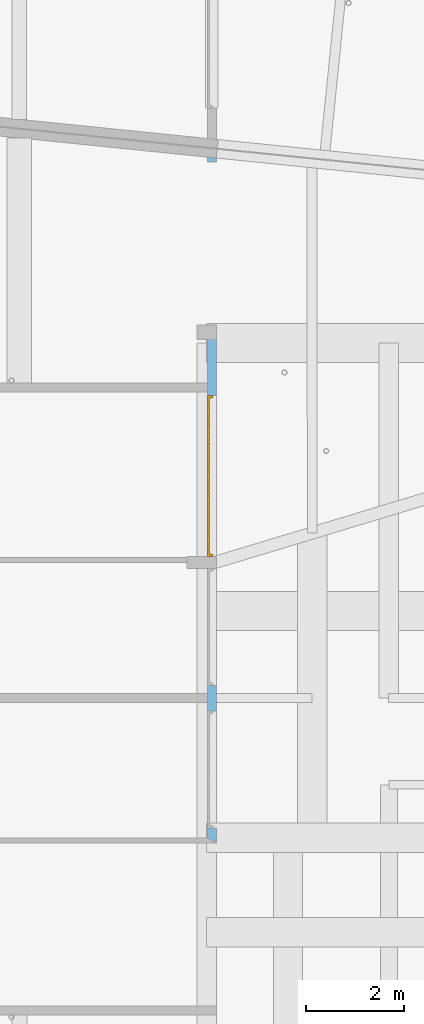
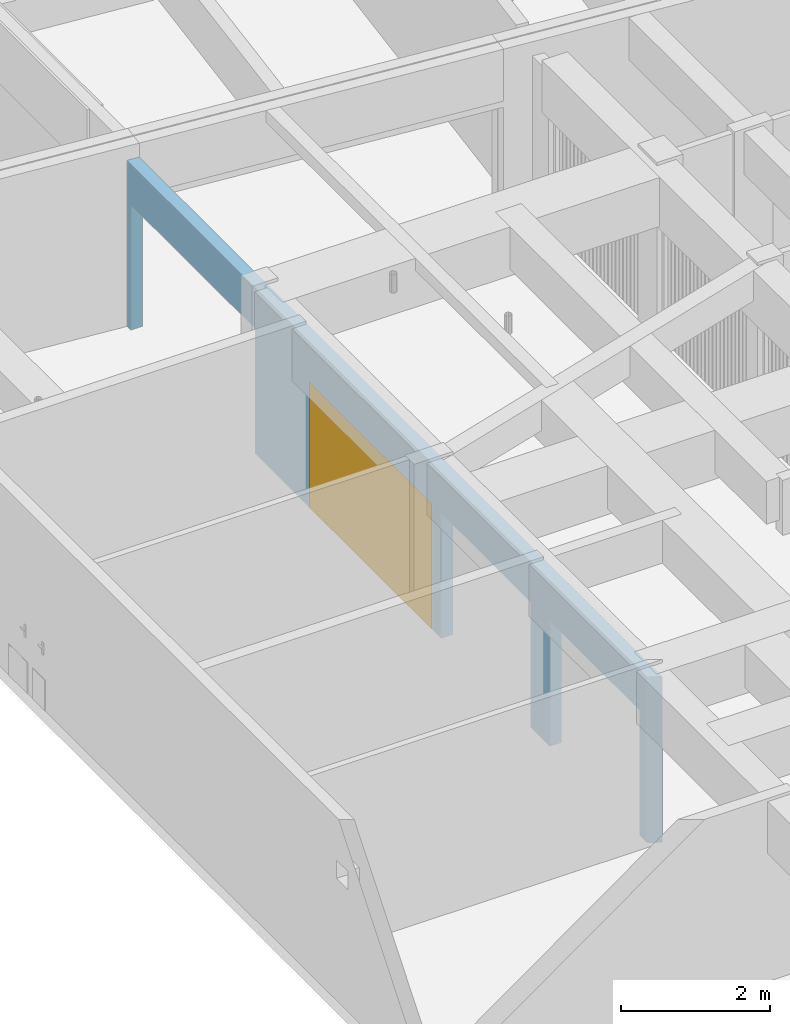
# One storey, part 12 of 41: 1 door, 4 openings, plus 1 element that does not belong to this part.
"""IFC2X3 building model written with IfcOpenShell, lengths in millimetres."""

from ifc_helpers import new_model, entity, si_unit, converted_unit, derived_unit, money_unit, direction, frame, origin_with_axes, origin_2d_with_axis, place, context, subcontext, project, spatial, polyline, rectangle, outline, extrude, faceted_brep, source, transform, mapped, material, layer, layer_set, layer_usage, type_object, element, fill, save


model = new_model("IFC2X3")

# Units and contexts
model_context = context("Model", 3, precision=0.01, world=origin_with_axes(), true_north=direction((0.0, 1.0)))
body_context = subcontext(model_context, "Body", "Model", "MODEL_VIEW")
ifc_project = project(units=[si_unit("LENGTHUNIT", "METRE", prefix="MILLI"), si_unit("AREAUNIT", "SQUARE_METRE"), si_unit("VOLUMEUNIT", "CUBIC_METRE"), converted_unit("PLANEANGLEUNIT", "DEGREE", entity("IfcPlaneAngleMeasure", 0.0174532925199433), si_unit("PLANEANGLEUNIT", "RADIAN"), dimensions=[0, 0, 0, 0, 0, 0, 0]), money_unit("USD"), converted_unit("TIMEUNIT", "Year", entity("IfcTimeMeasure", 31557600.0), si_unit("TIMEUNIT", "SECOND"), dimensions=[0, 0, 1, 0, 0, 0, 0]), si_unit("MASSUNIT", "GRAM", prefix="KILO"), si_unit("THERMODYNAMICTEMPERATUREUNIT", "DEGREE_CELSIUS"), si_unit("LUMINOUSINTENSITYUNIT", "LUMEN"), si_unit("ENERGYUNIT", "JOULE", prefix="MEGA"), derived_unit("THERMALCONDUCTANCEUNIT", [(si_unit("POWERUNIT", "WATT"), 1), (si_unit("LENGTHUNIT", "METRE"), -1), (si_unit("THERMODYNAMICTEMPERATUREUNIT", "KELVIN"), -1)]), derived_unit("SPECIFICHEATCAPACITYUNIT", [(si_unit("ENERGYUNIT", "JOULE"), 1), (si_unit("MASSUNIT", "GRAM", prefix="KILO"), -1), (si_unit("THERMODYNAMICTEMPERATUREUNIT", "KELVIN"), -1)]), derived_unit("MASSDENSITYUNIT", [(si_unit("MASSUNIT", "GRAM", prefix="KILO"), 1), (si_unit("VOLUMEUNIT", "CUBIC_METRE"), -1)])], contexts=[model_context])

# Site, building, storey
site_placement = place(None, origin_with_axes())
site = spatial("IfcSite", under=ifc_project, at=site_placement, Name="Site", CompositionType="ELEMENT")
building_placement = place(site_placement, origin_with_axes())
building = spatial("IfcBuilding", under=site, at=building_placement, Name="Bâtiment", CompositionType="ELEMENT")
storey_placement = place(building_placement, origin_with_axes())
storey = spatial("IfcBuildingStorey", under=building, at=storey_placement, Name="sousol", CompositionType="ELEMENT", Elevation=0.0)

# Wall, openings, door
ifc_material = material(Name="Parpaing 314940890")
ifc_layer = layer(ifc_material, 180.0, ventilated="UNKNOWN")
ifc_layer_set = layer_set([ifc_layer], Name="Beton  18 0170347028")
ifc_layer_usage = layer_usage(ifc_layer_set, "AXIS2", "NEGATIVE", 0.0)
wall_type = type_object("IfcWallType", Name="Beton  18 0170347028 180", PredefinedType="NOTDEFINED")
wall_placement = place(storey_placement, frame((2222264.233344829, -621462.5328940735, 0.0), z_axis=(0.0, 0.0, 1.0), x_axis=(0.0, -1.0, 0.0)))
wall = element("IfcWallStandardCase", 1, at=wall_placement, inside=storey, type_object=wall_type, material=ifc_layer_usage, Name="Mur-133", context=body_context, shape_type="SweptSolid", body=[
    extrude(outline(polyline([(-18.29231084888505, -179.99999999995), (13931.14654136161, -179.99999999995), (14031.14654136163, 0.0), (0.0, 0.0), (-18.29231084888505, -179.99999999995)])), origin_with_axes(), (0.0, 0.0, 1.0), 2719.999999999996),
])
opening_1_placement = place(wall_placement, frame((12525.68746920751, 2.046363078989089e-09, 0.0), z_axis=(0.0, 0.0, 1.0), x_axis=(1.0, 0.0, 0.0)))
element("IfcOpeningElement", 2, at=opening_1_placement, cuts=wall, Name="Por-296", context=body_context, shape_type="SweptSolid", body=[
    extrude(rectangle(XDim=2400.000000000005, YDim=2050.0, at=origin_2d_with_axis()), frame((0.0, -180.0000000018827, 1025.0), z_axis=(0.0, 1.0, 0.0), x_axis=(1.0, 0.0, 0.0)), (0.0, 0.0, -1.0), 180.0),
    extrude(rectangle(XDim=2400.000000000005, YDim=2050.0, at=origin_2d_with_axis()), frame((0.0, -180.0000000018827, 1025.0), z_axis=(0.0, -1.0, 0.0), x_axis=(1.0, 0.0, 0.0)), (0.0, 0.0, -1.0), 180.0),
])
opening_2_placement = place(wall_placement, frame((6511.917336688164, 1.13686837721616e-09, 0.0), z_axis=(0.0, 0.0, 1.0), x_axis=(1.0, 0.0, 0.0)))
opening_2 = element("IfcOpeningElement", 3, at=opening_2_placement, cuts=wall, Name="Por-296", context=body_context, shape_type="SweptSolid", body=[
    extrude(rectangle(XDim=3299.999999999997, YDim=2050.0, at=origin_2d_with_axis()), frame((0.0, -180.0000000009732, 1025.0), z_axis=(0.0, 1.0, 0.0), x_axis=(1.0, 0.0, 0.0)), (0.0, 0.0, -1.0), 180.0),
    extrude(rectangle(XDim=3299.999999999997, YDim=2050.0, at=origin_2d_with_axis()), frame((0.0, -180.0000000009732, 1025.0), z_axis=(0.0, -1.0, 0.0), x_axis=(1.0, 0.0, 0.0)), (0.0, 0.0, -1.0), 180.0),
])
opening_3_placement = place(wall_placement, frame((9610.427612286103, 1.591615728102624e-09, 0.0), z_axis=(0.0, 0.0, 1.0), x_axis=(1.0, 0.0, 0.0)))
element("IfcOpeningElement", 4, at=opening_3_placement, cuts=wall, Name="Por-296", context=body_context, shape_type="SweptSolid", body=[
    extrude(rectangle(XDim=2400.000000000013, YDim=2050.0, at=origin_2d_with_axis()), frame((0.0, -180.0000000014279, 1025.0), z_axis=(0.0, 1.0, 0.0), x_axis=(1.0, 0.0, 0.0)), (0.0, 0.0, -1.0), 180.0),
    extrude(rectangle(XDim=2400.000000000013, YDim=2050.0, at=origin_2d_with_axis()), frame((0.0, -180.0000000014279, 1025.0), z_axis=(0.0, -1.0, 0.0), x_axis=(1.0, 0.0, 0.0)), (0.0, 0.0, -1.0), 180.0),
])
opening_4_placement = place(wall_placement, frame((1751.217755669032, 3.410605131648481e-10, 0.0), z_axis=(0.0, 0.0, 1.0), x_axis=(1.0, 0.0, 0.0)))
element("IfcOpeningElement", 5, at=opening_4_placement, cuts=wall, Name="Por-296", context=body_context, shape_type="SweptSolid", body=[
    extrude(rectangle(XDim=3337.990043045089, YDim=2050.0, at=origin_2d_with_axis()), frame((0.0, -180.0000000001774, 1025.0), z_axis=(0.0, 1.0, 0.0), x_axis=(1.0, 0.0, 0.0)), (0.0, 0.0, -1.0), 180.0),
    extrude(rectangle(XDim=3337.990043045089, YDim=2050.0, at=origin_2d_with_axis()), frame((0.0, -180.0000000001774, 1025.0), z_axis=(0.0, -1.0, 0.0), x_axis=(1.0, 0.0, 0.0)), (0.0, 0.0, -1.0), 180.0),
])
door_style = type_object("IfcDoorStyle", Name="P_garage 1", ConstructionType="NOTDEFINED", OperationType="NOTDEFINED", ParameterTakesPrecedence=False, Sizeable=False)
shared_shape = source(origin_with_axes(), body_context, "Body", "Brep", [
    faceted_brep([(1650.0, 0.0, 0.0), (1650.0, -100.0, 0.0), (1600.0, -100.0, 0.0), (1600.0, 0.0, 0.0), (1650.0, 0.0, 2050.0), (1650.0, -100.0, 2050.0), (-1650.0, -100.0, 2050.0), (-1650.0, -100.0, 0.0), (-1600.0, -100.0, 0.0), (-1600.0, -100.0, 2000.0), (1600.0, -100.0, 2000.0), (1600.0, 0.0, 2000.0), (-1600.0, 0.0, 2000.0), (-1600.0, 0.0, 0.0), (-1650.0, 0.0, 0.0), (-1650.0, 0.0, 2050.0)], [[[0, 1, 2, 3]], [[4, 5, 1, 0]], [[1, 5, 6, 7, 8, 9, 10, 2]], [[3, 2, 10, 11]], [[0, 3, 11, 12, 13, 14, 15, 4]], [[15, 6, 5, 4]], [[14, 7, 6, 15]], [[13, 8, 7, 14]], [[12, 9, 8, 13]], [[11, 10, 9, 12]]]),
    faceted_brep([(1519.375, -40.0, 0.0), (1519.375, -40.0, 2000.0), (1519.375, -26.66666666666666, 2000.0), (1519.375, -26.66666666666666, 0.0), (1600.0, -40.0, 0.0), (1600.0, -40.0, 2000.0), (1600.0, -26.66666666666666, 2000.0), (1600.0, -26.66666666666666, 0.0)], [[[0, 1, 2, 3]], [[0, 4, 5, 1]], [[1, 5, 6, 2]], [[3, 2, 6, 7]], [[4, 0, 3, 7]], [[5, 4, 7, 6]]]),
    faceted_brep([(1418.75, -40.0, 0.0), (1418.75, -40.0, 2000.0), (1418.75, -26.66666666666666, 2000.0), (1418.75, -26.66666666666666, 0.0), (1499.375, -40.0, 0.0), (1499.375, -40.0, 2000.0), (1499.375, -26.66666666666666, 2000.0), (1499.375, -26.66666666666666, 0.0)], [[[0, 1, 2, 3]], [[0, 4, 5, 1]], [[1, 5, 6, 2]], [[3, 2, 6, 7]], [[4, 0, 3, 7]], [[5, 4, 7, 6]]]),
    faceted_brep([(1318.125, -40.0, 0.0), (1318.125, -40.0, 2000.0), (1318.125, -26.66666666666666, 2000.0), (1318.125, -26.66666666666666, 0.0), (1398.75, -40.0, 0.0), (1398.75, -40.0, 2000.0), (1398.75, -26.66666666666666, 2000.0), (1398.75, -26.66666666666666, 0.0)], [[[0, 1, 2, 3]], [[0, 4, 5, 1]], [[1, 5, 6, 2]], [[3, 2, 6, 7]], [[4, 0, 3, 7]], [[5, 4, 7, 6]]]),
    faceted_brep([(1217.5, -40.0, 0.0), (1217.5, -40.0, 2000.0), (1217.5, -26.66666666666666, 2000.0), (1217.5, -26.66666666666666, 0.0), (1298.125, -40.0, 0.0), (1298.125, -40.0, 2000.0), (1298.125, -26.66666666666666, 2000.0), (1298.125, -26.66666666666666, 0.0)], [[[0, 1, 2, 3]], [[0, 4, 5, 1]], [[1, 5, 6, 2]], [[3, 2, 6, 7]], [[4, 0, 3, 7]], [[5, 4, 7, 6]]]),
    faceted_brep([(1116.875, -40.0, 0.0), (1116.875, -40.0, 2000.0), (1116.875, -26.66666666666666, 2000.0), (1116.875, -26.66666666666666, 0.0), (1197.5, -40.0, 0.0), (1197.5, -40.0, 2000.0), (1197.5, -26.66666666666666, 2000.0), (1197.5, -26.66666666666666, 0.0)], [[[0, 1, 2, 3]], [[0, 4, 5, 1]], [[1, 5, 6, 2]], [[3, 2, 6, 7]], [[4, 0, 3, 7]], [[5, 4, 7, 6]]]),
    faceted_brep([(1016.25, -40.0, 0.0), (1016.25, -40.0, 2000.0), (1016.25, -26.66666666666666, 2000.0), (1016.25, -26.66666666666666, 0.0), (1096.875, -40.0, 0.0), (1096.875, -40.0, 2000.0), (1096.875, -26.66666666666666, 2000.0), (1096.875, -26.66666666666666, 0.0)], [[[0, 1, 2, 3]], [[0, 4, 5, 1]], [[1, 5, 6, 2]], [[3, 2, 6, 7]], [[4, 0, 3, 7]], [[5, 4, 7, 6]]]),
    faceted_brep([(915.625, -40.0, 0.0), (915.625, -40.0, 2000.0), (915.625, -26.66666666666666, 2000.0), (915.625, -26.66666666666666, 0.0), (996.25, -40.0, 0.0), (996.25, -40.0, 2000.0), (996.25, -26.66666666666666, 2000.0), (996.25, -26.66666666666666, 0.0)], [[[0, 1, 2, 3]], [[0, 4, 5, 1]], [[1, 5, 6, 2]], [[3, 2, 6, 7]], [[4, 0, 3, 7]], [[5, 4, 7, 6]]]),
    faceted_brep([(815.0000000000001, -40.0, 0.0), (815.0000000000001, -40.0, 2000.0), (815.0000000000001, -26.66666666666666, 2000.0), (815.0000000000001, -26.66666666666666, 0.0), (895.625, -40.0, 0.0), (895.625, -40.0, 2000.0), (895.625, -26.66666666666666, 2000.0), (895.625, -26.66666666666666, 0.0)], [[[0, 1, 2, 3]], [[0, 4, 5, 1]], [[1, 5, 6, 2]], [[3, 2, 6, 7]], [[4, 0, 3, 7]], [[5, 4, 7, 6]]]),
    faceted_brep([(714.3750000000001, -40.0, 0.0), (714.3750000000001, -40.0, 2000.0), (714.3750000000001, -26.66666666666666, 2000.0), (714.3750000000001, -26.66666666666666, 0.0), (795.0, -40.0, 0.0), (795.0, -40.0, 2000.0), (795.0, -26.66666666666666, 2000.0), (795.0, -26.66666666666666, 0.0)], [[[0, 1, 2, 3]], [[0, 4, 5, 1]], [[1, 5, 6, 2]], [[3, 2, 6, 7]], [[4, 0, 3, 7]], [[5, 4, 7, 6]]]),
    faceted_brep([(613.7500000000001, -40.0, 0.0), (613.7500000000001, -40.0, 2000.0), (613.7500000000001, -26.66666666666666, 2000.0), (613.7500000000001, -26.66666666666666, 0.0), (694.3750000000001, -40.0, 0.0), (694.3750000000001, -40.0, 2000.0), (694.3750000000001, -26.66666666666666, 2000.0), (694.3750000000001, -26.66666666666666, 0.0)], [[[0, 1, 2, 3]], [[0, 4, 5, 1]], [[1, 5, 6, 2]], [[3, 2, 6, 7]], [[4, 0, 3, 7]], [[5, 4, 7, 6]]]),
    faceted_brep([(513.125, -40.0, 0.0), (513.125, -40.0, 2000.0), (513.125, -26.66666666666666, 2000.0), (513.125, -26.66666666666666, 0.0), (593.75, -40.0, 0.0), (593.75, -40.0, 2000.0), (593.75, -26.66666666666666, 2000.0), (593.75, -26.66666666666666, 0.0)], [[[0, 1, 2, 3]], [[0, 4, 5, 1]], [[1, 5, 6, 2]], [[3, 2, 6, 7]], [[4, 0, 3, 7]], [[5, 4, 7, 6]]]),
    faceted_brep([(412.5000000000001, -40.0, 0.0), (412.5000000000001, -40.0, 2000.0), (412.5000000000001, -26.66666666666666, 2000.0), (412.5000000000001, -26.66666666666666, 0.0), (493.1250000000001, -40.0, 0.0), (493.1250000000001, -40.0, 2000.0), (493.1250000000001, -26.66666666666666, 2000.0), (493.1250000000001, -26.66666666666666, 0.0)], [[[0, 1, 2, 3]], [[0, 4, 5, 1]], [[1, 5, 6, 2]], [[3, 2, 6, 7]], [[4, 0, 3, 7]], [[5, 4, 7, 6]]]),
    faceted_brep([(311.8750000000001, -40.0, 0.0), (311.8750000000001, -40.0, 2000.0), (311.8750000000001, -26.66666666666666, 2000.0), (311.8750000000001, -26.66666666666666, 0.0), (392.5000000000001, -40.0, 0.0), (392.5000000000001, -40.0, 2000.0), (392.5000000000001, -26.66666666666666, 2000.0), (392.5000000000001, -26.66666666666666, 0.0)], [[[0, 1, 2, 3]], [[0, 4, 5, 1]], [[1, 5, 6, 2]], [[3, 2, 6, 7]], [[4, 0, 3, 7]], [[5, 4, 7, 6]]]),
    faceted_brep([(211.2500000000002, -40.0, 0.0), (211.2500000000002, -40.0, 2000.0), (211.2500000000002, -26.66666666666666, 2000.0), (211.2500000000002, -26.66666666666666, 0.0), (291.8750000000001, -40.0, 0.0), (291.8750000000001, -40.0, 2000.0), (291.8750000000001, -26.66666666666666, 2000.0), (291.8750000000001, -26.66666666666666, 0.0)], [[[0, 1, 2, 3]], [[0, 4, 5, 1]], [[1, 5, 6, 2]], [[3, 2, 6, 7]], [[4, 0, 3, 7]], [[5, 4, 7, 6]]]),
    faceted_brep([(110.6250000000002, -40.0, 0.0), (110.6250000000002, -40.0, 2000.0), (110.6250000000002, -26.66666666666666, 2000.0), (110.6250000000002, -26.66666666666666, 0.0), (191.2500000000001, -40.0, 0.0), (191.2500000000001, -40.0, 2000.0), (191.2500000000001, -26.66666666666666, 2000.0), (191.2500000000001, -26.66666666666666, 0.0)], [[[0, 1, 2, 3]], [[0, 4, 5, 1]], [[1, 5, 6, 2]], [[3, 2, 6, 7]], [[4, 0, 3, 7]], [[5, 4, 7, 6]]]),
    faceted_brep([(10.00000000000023, -40.0, 0.0), (10.00000000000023, -40.0, 2000.0), (10.00000000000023, -26.66666666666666, 2000.0), (10.00000000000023, -26.66666666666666, 0.0), (90.62500000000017, -40.0, 0.0), (90.62500000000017, -40.0, 2000.0), (90.62500000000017, -26.66666666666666, 2000.0), (90.62500000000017, -26.66666666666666, 0.0)], [[[0, 1, 2, 3]], [[0, 4, 5, 1]], [[1, 5, 6, 2]], [[3, 2, 6, 7]], [[4, 0, 3, 7]], [[5, 4, 7, 6]]]),
    faceted_brep([(-90.62499999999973, -40.0, 0.0), (-90.62499999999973, -40.0, 2000.0), (-90.62499999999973, -26.66666666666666, 2000.0), (-90.62499999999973, -26.66666666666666, 0.0), (-9.999999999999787, -40.0, 0.0), (-9.999999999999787, -40.0, 2000.0), (-9.999999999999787, -26.66666666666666, 2000.0), (-9.999999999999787, -26.66666666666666, 0.0)], [[[0, 1, 2, 3]], [[0, 4, 5, 1]], [[1, 5, 6, 2]], [[3, 2, 6, 7]], [[4, 0, 3, 7]], [[5, 4, 7, 6]]]),
    faceted_brep([(-191.2499999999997, -40.0, 0.0), (-191.2499999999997, -40.0, 2000.0), (-191.2499999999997, -26.66666666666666, 2000.0), (-191.2499999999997, -26.66666666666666, 0.0), (-110.6249999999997, -40.0, 0.0), (-110.6249999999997, -40.0, 2000.0), (-110.6249999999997, -26.66666666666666, 2000.0), (-110.6249999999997, -26.66666666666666, 0.0)], [[[0, 1, 2, 3]], [[0, 4, 5, 1]], [[1, 5, 6, 2]], [[3, 2, 6, 7]], [[4, 0, 3, 7]], [[5, 4, 7, 6]]]),
    faceted_brep([(-291.8749999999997, -40.0, 0.0), (-291.8749999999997, -40.0, 2000.0), (-291.8749999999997, -26.66666666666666, 2000.0), (-291.8749999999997, -26.66666666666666, 0.0), (-211.2499999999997, -40.0, 0.0), (-211.2499999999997, -40.0, 2000.0), (-211.2499999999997, -26.66666666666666, 2000.0), (-211.2499999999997, -26.66666666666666, 0.0)], [[[0, 1, 2, 3]], [[0, 4, 5, 1]], [[1, 5, 6, 2]], [[3, 2, 6, 7]], [[4, 0, 3, 7]], [[5, 4, 7, 6]]]),
    faceted_brep([(-392.4999999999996, -40.0, 0.0), (-392.4999999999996, -40.0, 2000.0), (-392.4999999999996, -26.66666666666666, 2000.0), (-392.4999999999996, -26.66666666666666, 0.0), (-311.8749999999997, -40.0, 0.0), (-311.8749999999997, -40.0, 2000.0), (-311.8749999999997, -26.66666666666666, 2000.0), (-311.8749999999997, -26.66666666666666, 0.0)], [[[0, 1, 2, 3]], [[0, 4, 5, 1]], [[1, 5, 6, 2]], [[3, 2, 6, 7]], [[4, 0, 3, 7]], [[5, 4, 7, 6]]]),
    faceted_brep([(-493.1249999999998, -40.0, 0.0), (-493.1249999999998, -40.0, 2000.0), (-493.1249999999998, -26.66666666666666, 2000.0), (-493.1249999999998, -26.66666666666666, 0.0), (-412.4999999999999, -40.0, 0.0), (-412.4999999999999, -40.0, 2000.0), (-412.4999999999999, -26.66666666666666, 2000.0), (-412.4999999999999, -26.66666666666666, 0.0)], [[[0, 1, 2, 3]], [[0, 4, 5, 1]], [[1, 5, 6, 2]], [[3, 2, 6, 7]], [[4, 0, 3, 7]], [[5, 4, 7, 6]]]),
    faceted_brep([(-593.7499999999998, -40.0, 0.0), (-593.7499999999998, -40.0, 2000.0), (-593.7499999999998, -26.66666666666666, 2000.0), (-593.7499999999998, -26.66666666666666, 0.0), (-513.1249999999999, -40.0, 0.0), (-513.1249999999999, -40.0, 2000.0), (-513.1249999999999, -26.66666666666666, 2000.0), (-513.1249999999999, -26.66666666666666, 0.0)], [[[0, 1, 2, 3]], [[0, 4, 5, 1]], [[1, 5, 6, 2]], [[3, 2, 6, 7]], [[4, 0, 3, 7]], [[5, 4, 7, 6]]]),
    faceted_brep([(-694.3749999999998, -40.0, 0.0), (-694.3749999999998, -40.0, 2000.0), (-694.3749999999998, -26.66666666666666, 2000.0), (-694.3749999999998, -26.66666666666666, 0.0), (-613.7499999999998, -40.0, 0.0), (-613.7499999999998, -40.0, 2000.0), (-613.7499999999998, -26.66666666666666, 2000.0), (-613.7499999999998, -26.66666666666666, 0.0)], [[[0, 1, 2, 3]], [[0, 4, 5, 1]], [[1, 5, 6, 2]], [[3, 2, 6, 7]], [[4, 0, 3, 7]], [[5, 4, 7, 6]]]),
    faceted_brep([(-794.9999999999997, -40.0, 0.0), (-794.9999999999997, -40.0, 2000.0), (-794.9999999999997, -26.66666666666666, 2000.0), (-794.9999999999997, -26.66666666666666, 0.0), (-714.3749999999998, -40.0, 0.0), (-714.3749999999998, -40.0, 2000.0), (-714.3749999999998, -26.66666666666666, 2000.0), (-714.3749999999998, -26.66666666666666, 0.0)], [[[0, 1, 2, 3]], [[0, 4, 5, 1]], [[1, 5, 6, 2]], [[3, 2, 6, 7]], [[4, 0, 3, 7]], [[5, 4, 7, 6]]]),
    faceted_brep([(-895.6249999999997, -40.0, 0.0), (-895.6249999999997, -40.0, 2000.0), (-895.6249999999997, -26.66666666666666, 2000.0), (-895.6249999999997, -26.66666666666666, 0.0), (-814.9999999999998, -40.0, 0.0), (-814.9999999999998, -40.0, 2000.0), (-814.9999999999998, -26.66666666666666, 2000.0), (-814.9999999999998, -26.66666666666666, 0.0)], [[[0, 1, 2, 3]], [[0, 4, 5, 1]], [[1, 5, 6, 2]], [[3, 2, 6, 7]], [[4, 0, 3, 7]], [[5, 4, 7, 6]]]),
    faceted_brep([(-996.2499999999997, -40.0, 0.0), (-996.2499999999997, -40.0, 2000.0), (-996.2499999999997, -26.66666666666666, 2000.0), (-996.2499999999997, -26.66666666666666, 0.0), (-915.6249999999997, -40.0, 0.0), (-915.6249999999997, -40.0, 2000.0), (-915.6249999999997, -26.66666666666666, 2000.0), (-915.6249999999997, -26.66666666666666, 0.0)], [[[0, 1, 2, 3]], [[0, 4, 5, 1]], [[1, 5, 6, 2]], [[3, 2, 6, 7]], [[4, 0, 3, 7]], [[5, 4, 7, 6]]]),
    faceted_brep([(-1096.875, -40.0, 0.0), (-1096.875, -40.0, 2000.0), (-1096.875, -26.66666666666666, 2000.0), (-1096.875, -26.66666666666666, 0.0), (-1016.25, -40.0, 0.0), (-1016.25, -40.0, 2000.0), (-1016.25, -26.66666666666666, 2000.0), (-1016.25, -26.66666666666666, 0.0)], [[[0, 1, 2, 3]], [[0, 4, 5, 1]], [[1, 5, 6, 2]], [[3, 2, 6, 7]], [[4, 0, 3, 7]], [[5, 4, 7, 6]]]),
    faceted_brep([(-1197.5, -40.0, 0.0), (-1197.5, -40.0, 2000.0), (-1197.5, -26.66666666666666, 2000.0), (-1197.5, -26.66666666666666, 0.0), (-1116.875, -40.0, 0.0), (-1116.875, -40.0, 2000.0), (-1116.875, -26.66666666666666, 2000.0), (-1116.875, -26.66666666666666, 0.0)], [[[0, 1, 2, 3]], [[0, 4, 5, 1]], [[1, 5, 6, 2]], [[3, 2, 6, 7]], [[4, 0, 3, 7]], [[5, 4, 7, 6]]]),
    faceted_brep([(-1298.125, -40.0, 0.0), (-1298.125, -40.0, 2000.0), (-1298.125, -26.66666666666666, 2000.0), (-1298.125, -26.66666666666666, 0.0), (-1217.5, -40.0, 0.0), (-1217.5, -40.0, 2000.0), (-1217.5, -26.66666666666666, 2000.0), (-1217.5, -26.66666666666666, 0.0)], [[[0, 1, 2, 3]], [[0, 4, 5, 1]], [[1, 5, 6, 2]], [[3, 2, 6, 7]], [[4, 0, 3, 7]], [[5, 4, 7, 6]]]),
    faceted_brep([(-1398.75, -40.0, 0.0), (-1398.75, -40.0, 2000.0), (-1398.75, -26.66666666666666, 2000.0), (-1398.75, -26.66666666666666, 0.0), (-1318.125, -40.0, 0.0), (-1318.125, -40.0, 2000.0), (-1318.125, -26.66666666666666, 2000.0), (-1318.125, -26.66666666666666, 0.0)], [[[0, 1, 2, 3]], [[0, 4, 5, 1]], [[1, 5, 6, 2]], [[3, 2, 6, 7]], [[4, 0, 3, 7]], [[5, 4, 7, 6]]]),
    faceted_brep([(-1499.375, -40.0, 0.0), (-1499.375, -40.0, 2000.0), (-1499.375, -26.66666666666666, 2000.0), (-1499.375, -26.66666666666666, 0.0), (-1418.75, -40.0, 0.0), (-1418.75, -40.0, 2000.0), (-1418.75, -26.66666666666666, 2000.0), (-1418.75, -26.66666666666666, 0.0)], [[[0, 1, 2, 3]], [[0, 4, 5, 1]], [[1, 5, 6, 2]], [[3, 2, 6, 7]], [[4, 0, 3, 7]], [[5, 4, 7, 6]]]),
    faceted_brep([(-1599.999999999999, -40.0, 0.0), (-1599.999999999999, -40.0, 2000.0), (-1599.999999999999, -26.66666666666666, 2000.0), (-1599.999999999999, -26.66666666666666, 0.0), (-1519.375, -40.0, 0.0), (-1519.375, -40.0, 2000.0), (-1519.375, -26.66666666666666, 2000.0), (-1519.375, -26.66666666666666, 0.0)], [[[0, 1, 2, 3]], [[0, 4, 5, 1]], [[1, 5, 6, 2]], [[3, 2, 6, 7]], [[4, 0, 3, 7]], [[5, 4, 7, 6]]]),
    faceted_brep([(1600.0, -26.66666666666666, 0.0), (-1600.0, -26.66666666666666, 0.0), (-1600.0, 0.0, 0.0), (1600.0, 0.0, 0.0), (1600.0, -26.66666666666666, 2000.0), (-1600.0, -26.66666666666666, 2000.0), (-1600.0, 0.0, 2000.0), (1600.0, 0.0, 2000.0)], [[[0, 1, 2, 3]], [[0, 4, 5, 1]], [[1, 5, 6, 2]], [[3, 2, 6, 7]], [[4, 0, 3, 7]], [[5, 4, 7, 6]]]),
])
door_placement = place(opening_2_placement, frame((1650.000000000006, 4.547473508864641e-10, 0.0), z_axis=(0.0, 0.0, 1.0), x_axis=(-1.0, 0.0, 0.0)))
door = element("IfcDoor", 6, at=door_placement, inside=storey, type_object=door_style, Name="Por-296", OverallHeight=2050.0, OverallWidth=3300.0, context=body_context, shape_type="MappedRepresentation", body=[
    mapped(shared_shape, transform((1649.999999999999, 180.0000000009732, 0.0))),
])
fill(opening_2, door)

save(model, "model.ifc")
